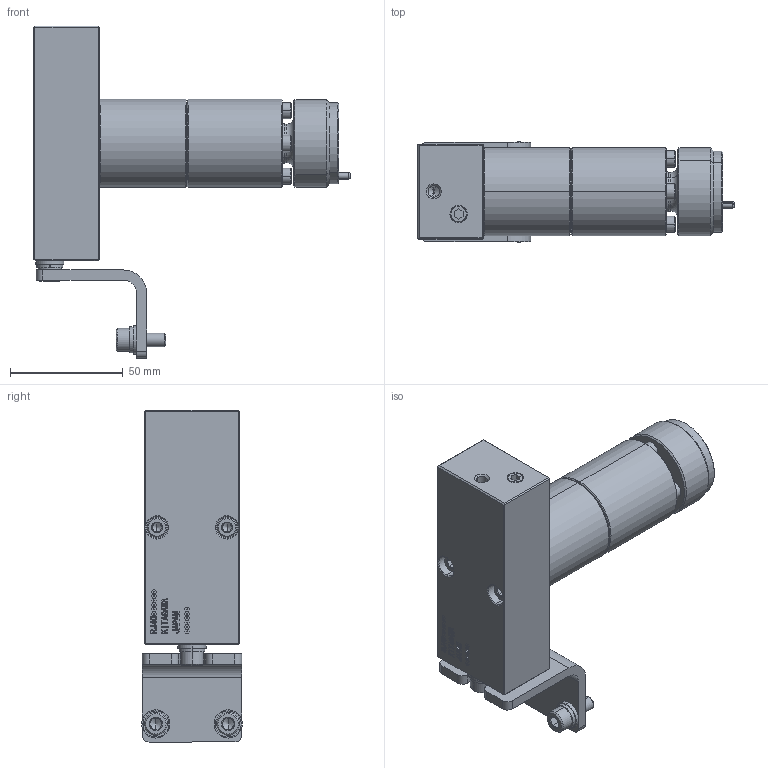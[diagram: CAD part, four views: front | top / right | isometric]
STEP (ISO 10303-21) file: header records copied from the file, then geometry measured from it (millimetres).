
FILE_DESCRIPTION (( 'STEP AP214' ), '1' );
FILE_NAME ('OUTSIDE VIEW(61E8286022)RJ40H12W04_.STEP', '2025-07-13T04:41:58', ( '' ), ( '' ), 'SwSTEP 2.0', 'SolidWorks 2022', '' );
FILE_SCHEMA (( 'AUTOMOTIVE_DESIGN' ));
Length unit declared in the file: millimetre
Products named in the file (4): RJ40H12W04_VALVE; OUTSIDE VIEW(61E8286022)RJ40H12W04_; RJ40H12W04_BLOCK; RJ40H12W04_STOPPER
Assembly tree (3 placements, depth 2):
  OUTSIDE VIEW(61E8286022)RJ40H12W04_
    RJ40H12W04_VALVE
    RJ40H12W04_BLOCK
    RJ40H12W04_STOPPER
Bounding box: 140 x 44.5 x 147 mm (x, y, z)
Volume: 249027.5 mm3; surface area: 68014.8 mm2
Topology: 29 solids, 29 shells, 1231 faces, 3140 edges, 1991 vertices
Faces by surface type: plane 674, cone 219, cylinder 199, bspline 135, torus 4
Entity records: 55640 total; most frequent: CARTESIAN_POINT 13127, ORIENTED_EDGE 6140, DIRECTION 5385, EDGE_CURVE 3070, VECTOR 2007, LINE 2007, VERTEX_POINT 1991, AXIS2_PLACEMENT_3D 1689
